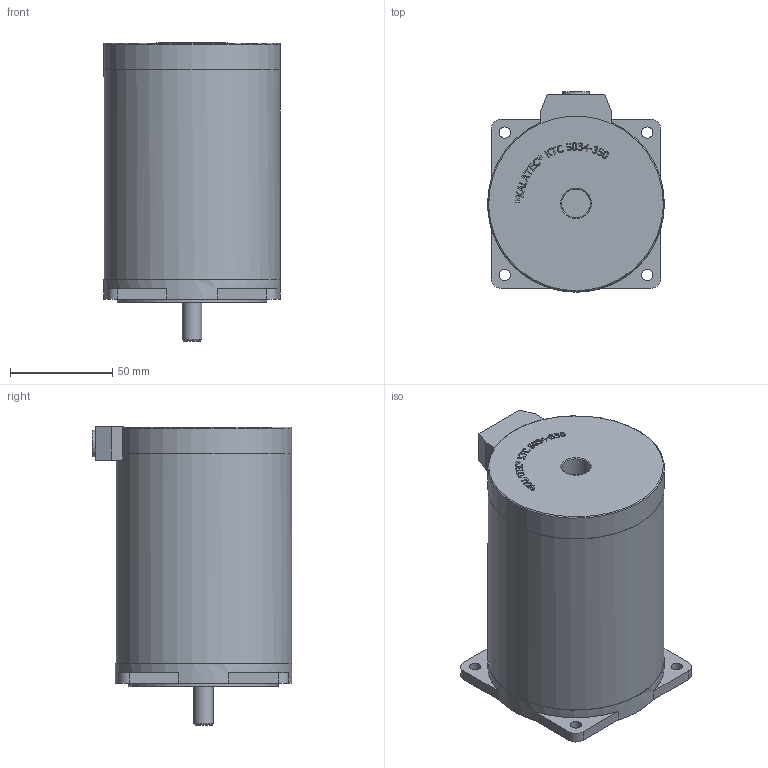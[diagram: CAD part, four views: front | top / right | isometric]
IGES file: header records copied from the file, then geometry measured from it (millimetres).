
Global section: file name: No Iges File Name specified; native system: Autodesk Inventor 2012; preprocessor: AutoDesk Inventor Iges Exporter R2012; author: Sergio Martins; date: 20121015.162136; units: millimetre
Bounding box: 86.3 x 97.65 x 145.65 mm (x, y, z)
Volume: 744348.8 mm3; surface area: 51356.4 mm2
Topology: 1 solids, 1 shells, 369 faces, 1009 edges, 671 vertices
Faces by surface type: plane 224, bspline 120, revolution 12, cylinder 10, cone 2, torus 1
Full cylindrical faces by diameter (mm): 9.52 x1, 13 x1, 73 x1, 86 x1, 86.3 x1
